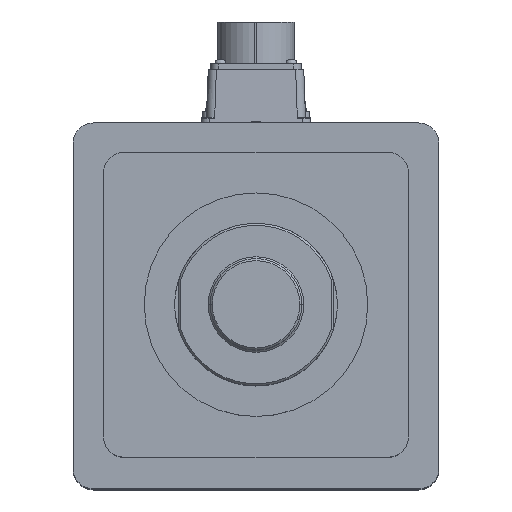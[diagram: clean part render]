
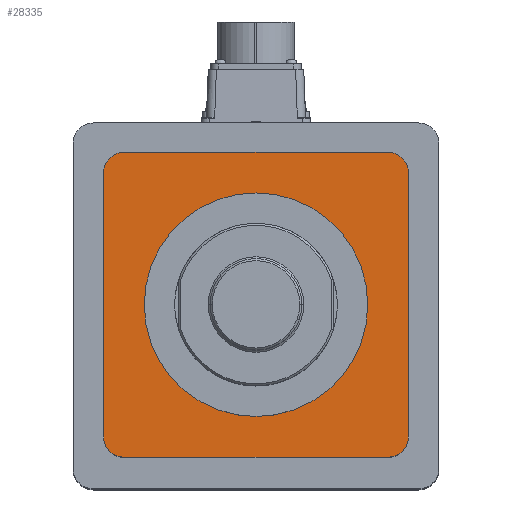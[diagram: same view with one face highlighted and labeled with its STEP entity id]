
A CAD part, top view. The second image highlights one B-rep face of the part: STEP entity #28335.
In plain terms, the highlighted planar face has unit normal (0, 0, 1).
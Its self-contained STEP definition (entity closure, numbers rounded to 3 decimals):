
#443 = CARTESIAN_POINT ( 'NONE',  ( 75., 0., 315. ) ) ;
#858 = ORIENTED_EDGE ( 'NONE', *, *, #23182, .F. ) ;
#1055 = ORIENTED_EDGE ( 'NONE', *, *, #11232, .T. ) ;
#1714 = LINE ( 'NONE', #3080, #25066 ) ;
#2151 = CARTESIAN_POINT ( 'NONE',  ( -75., -65., 315. ) ) ;
#2843 = DIRECTION ( 'NONE',  ( 1., 0., 0. ) ) ;
#3080 = CARTESIAN_POINT ( 'NONE',  ( -75., 0., 315. ) ) ;
#3204 = ORIENTED_EDGE ( 'NONE', *, *, #28051, .F. ) ;
#3481 = CARTESIAN_POINT ( 'NONE',  ( 0., 0., 315. ) ) ;
#3574 = CARTESIAN_POINT ( 'NONE',  ( 65., 65., 315. ) ) ;
#3609 = DIRECTION ( 'NONE',  ( 0., 0., -1. ) ) ;
#4898 = AXIS2_PLACEMENT_3D ( 'NONE', #22588, #29170, #25666 ) ;
#5219 = DIRECTION ( 'NONE',  ( 0., -1., 0. ) ) ;
#5287 = DIRECTION ( 'NONE',  ( 1., 0., 0. ) ) ;
#5897 = CARTESIAN_POINT ( 'NONE',  ( -65., -75., 315. ) ) ;
#6293 = VERTEX_POINT ( 'NONE', #10266 ) ;
#6923 = ORIENTED_EDGE ( 'NONE', *, *, #20457, .F. ) ;
#7082 = LINE ( 'NONE', #443, #28305 ) ;
#7505 = CARTESIAN_POINT ( 'NONE',  ( -65., 65., 315. ) ) ;
#7865 = DIRECTION ( 'NONE',  ( 1., 0., 0. ) ) ;
#7928 = CARTESIAN_POINT ( 'NONE',  ( -65., 75., 315. ) ) ;
#8183 = DIRECTION ( 'NONE',  ( 1., 0., 0. ) ) ;
#8677 = ORIENTED_EDGE ( 'NONE', *, *, #25588, .T. ) ;
#9261 = AXIS2_PLACEMENT_3D ( 'NONE', #17132, #3609, #8183 ) ;
#9272 = EDGE_CURVE ( 'NONE', #18322, #6293, #25569, .T. ) ;
#10266 = CARTESIAN_POINT ( 'NONE',  ( -55., 0., 315. ) ) ;
#10524 = AXIS2_PLACEMENT_3D ( 'NONE', #3481, #17409, #23832 ) ;
#11114 = CARTESIAN_POINT ( 'NONE',  ( 0., 0., 315. ) ) ;
#11232 = EDGE_CURVE ( 'NONE', #26724, #19969, #25791, .T. ) ;
#11359 = DIRECTION ( 'NONE',  ( -1., 0., 0. ) ) ;
#12099 = CIRCLE ( 'NONE', #18585, 55. ) ;
#12700 = CIRCLE ( 'NONE', #23420, 10. ) ;
#12734 = EDGE_LOOP ( 'NONE', ( #8677, #20685, #24608, #26138, #15682, #1055, #3204, #858 ) ) ;
#13073 = DIRECTION ( 'NONE',  ( 0., 0., 1. ) ) ;
#13277 = CIRCLE ( 'NONE', #15192, 10. ) ;
#14062 = DIRECTION ( 'NONE',  ( 0., 0., -1. ) ) ;
#14376 = VERTEX_POINT ( 'NONE', #16077 ) ;
#15163 = VECTOR ( 'NONE', #5287, 1000. ) ;
#15192 = AXIS2_PLACEMENT_3D ( 'NONE', #3574, #17202, #7865 ) ;
#15372 = VERTEX_POINT ( 'NONE', #2151 ) ;
#15615 = CIRCLE ( 'NONE', #4898, 10. ) ;
#15682 = ORIENTED_EDGE ( 'NONE', *, *, #17502, .F. ) ;
#15754 = VERTEX_POINT ( 'NONE', #21892 ) ;
#16077 = CARTESIAN_POINT ( 'NONE',  ( 75., 65., 315. ) ) ;
#16189 = CARTESIAN_POINT ( 'NONE',  ( 0., 0., 315. ) ) ;
#16630 = AXIS2_PLACEMENT_3D ( 'NONE', #16189, #18477, #11359 ) ;
#16775 = VERTEX_POINT ( 'NONE', #7928 ) ;
#17132 = CARTESIAN_POINT ( 'NONE',  ( -65., -65., 315. ) ) ;
#17202 = DIRECTION ( 'NONE',  ( 0., 0., 1. ) ) ;
#17409 = DIRECTION ( 'NONE',  ( 0., 0., -1. ) ) ;
#17502 = EDGE_CURVE ( 'NONE', #26724, #15372, #26030, .T. ) ;
#18322 = VERTEX_POINT ( 'NONE', #24264 ) ;
#18477 = DIRECTION ( 'NONE',  ( 0., 0., 1. ) ) ;
#18585 = AXIS2_PLACEMENT_3D ( 'NONE', #11114, #13073, #22272 ) ;
#19486 = FACE_BOUND ( 'NONE', #20421, .T. ) ;
#19611 = CARTESIAN_POINT ( 'NONE',  ( 65., -75., 315. ) ) ;
#19847 = VERTEX_POINT ( 'NONE', #28349 ) ;
#19969 = VERTEX_POINT ( 'NONE', #19611 ) ;
#20195 = FACE_OUTER_BOUND ( 'NONE', #12734, .T. ) ;
#20421 = EDGE_LOOP ( 'NONE', ( #6923, #26200 ) ) ;
#20457 = EDGE_CURVE ( 'NONE', #6293, #18322, #12099, .T. ) ;
#20685 = ORIENTED_EDGE ( 'NONE', *, *, #22653, .T. ) ;
#20957 = CARTESIAN_POINT ( 'NONE',  ( 100., -75., 315. ) ) ;
#21148 = DIRECTION ( 'NONE',  ( 0., -1., 0. ) ) ;
#21892 = CARTESIAN_POINT ( 'NONE',  ( 65., 75., 315. ) ) ;
#22272 = DIRECTION ( 'NONE',  ( -1., 0., 0. ) ) ;
#22434 = CARTESIAN_POINT ( 'NONE',  ( 100., 75., 315. ) ) ;
#22588 = CARTESIAN_POINT ( 'NONE',  ( 65., -65., 315. ) ) ;
#22653 = EDGE_CURVE ( 'NONE', #15754, #16775, #28996, .T. ) ;
#23182 = EDGE_CURVE ( 'NONE', #14376, #27759, #7082, .T. ) ;
#23420 = AXIS2_PLACEMENT_3D ( 'NONE', #7505, #14062, #2843 ) ;
#23825 = EDGE_CURVE ( 'NONE', #19847, #15372, #1714, .T. ) ;
#23832 = DIRECTION ( 'NONE',  ( -1., 0., 0. ) ) ;
#24264 = CARTESIAN_POINT ( 'NONE',  ( 55., 0., 315. ) ) ;
#24608 = ORIENTED_EDGE ( 'NONE', *, *, #29128, .F. ) ;
#25066 = VECTOR ( 'NONE', #21148, 1000. ) ;
#25569 = CIRCLE ( 'NONE', #16630, 55. ) ;
#25588 = EDGE_CURVE ( 'NONE', #14376, #15754, #13277, .T. ) ;
#25666 = DIRECTION ( 'NONE',  ( 1., 0., 0. ) ) ;
#25791 = LINE ( 'NONE', #20957, #15163 ) ;
#26030 = CIRCLE ( 'NONE', #9261, 10. ) ;
#26138 = ORIENTED_EDGE ( 'NONE', *, *, #23825, .T. ) ;
#26200 = ORIENTED_EDGE ( 'NONE', *, *, #9272, .F. ) ;
#26468 = CARTESIAN_POINT ( 'NONE',  ( 75., -65., 315. ) ) ;
#26724 = VERTEX_POINT ( 'NONE', #5897 ) ;
#27243 = VECTOR ( 'NONE', #29092, 1000. ) ;
#27759 = VERTEX_POINT ( 'NONE', #26468 ) ;
#28051 = EDGE_CURVE ( 'NONE', #27759, #19969, #15615, .T. ) ;
#28305 = VECTOR ( 'NONE', #5219, 1000. ) ;
#28335 = ADVANCED_FACE ( 'NONE', ( #20195, #19486 ), #28702, .F. ) ;
#28349 = CARTESIAN_POINT ( 'NONE',  ( -75., 65., 315. ) ) ;
#28702 = PLANE ( 'NONE',  #10524 ) ;
#28996 = LINE ( 'NONE', #22434, #27243 ) ;
#29092 = DIRECTION ( 'NONE',  ( -1., 0., 0. ) ) ;
#29128 = EDGE_CURVE ( 'NONE', #19847, #16775, #12700, .T. ) ;
#29170 = DIRECTION ( 'NONE',  ( 0., 0., -1. ) ) ;
